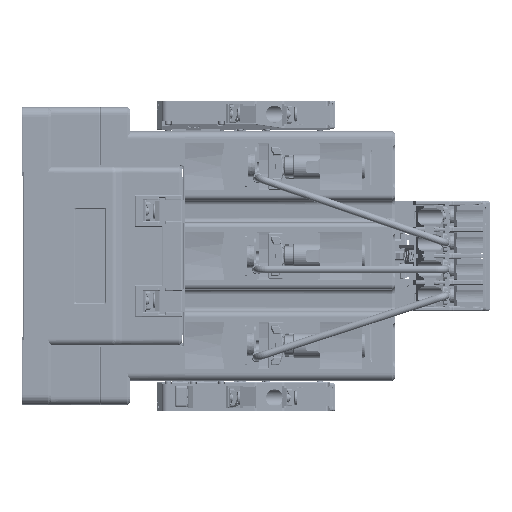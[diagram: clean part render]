
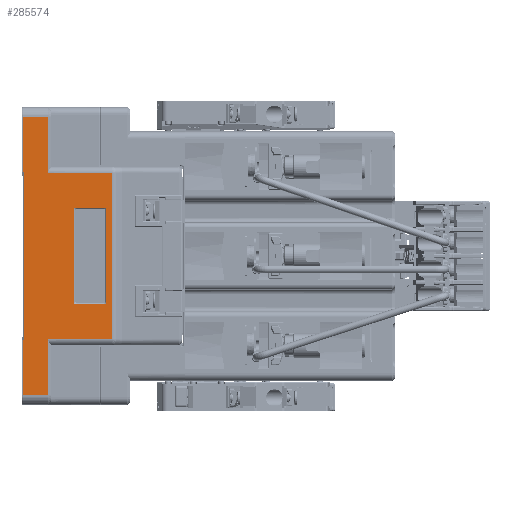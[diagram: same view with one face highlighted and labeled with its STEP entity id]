
A CAD part, left-side view. The second image highlights one B-rep face of the part: STEP entity #285574.
In plain terms, the highlighted planar face has unit normal (-1, 0, 0) as drawn and (1, 0, 0) by its records, which use the part's own axes.
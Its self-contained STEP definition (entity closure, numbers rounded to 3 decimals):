
#253289=DIRECTION('',(0.,1.,0.));
#253290=VECTOR('',#253289,0.5);
#253291=CARTESIAN_POINT('',(78.8,-2.7,33.95));
#253292=LINE('',#253291,#253290);
#253338=DIRECTION('',(0.,1.,0.));
#253339=VECTOR('',#253338,11.586);
#253340=CARTESIAN_POINT('',(78.8,18.707,19.5));
#253341=LINE('',#253340,#253339);
#253345=DIRECTION('',(0.,0.,1.));
#253346=VECTOR('',#253345,37.586);
#253347=CARTESIAN_POINT('',(78.8,18.,-18.793));
#253348=LINE('',#253347,#253346);
#253352=DIRECTION('',(0.,-1.,0.));
#253353=VECTOR('',#253352,11.586);
#253354=CARTESIAN_POINT('',(78.8,30.293,-19.5));
#253355=LINE('',#253354,#253353);
#253359=DIRECTION('',(0.,0.,-1.));
#253360=VECTOR('',#253359,37.586);
#253361=CARTESIAN_POINT('',(78.8,31.,18.793));
#253362=LINE('',#253361,#253360);
#253366=DIRECTION('',(0.,0.,1.));
#253367=VECTOR('',#253366,67.);
#253368=CARTESIAN_POINT('',(78.8,33.298,-33.5));
#253369=LINE('',#253368,#253367);
#253373=DIRECTION('',(0.,0.,-1.));
#253374=VECTOR('',#253373,22.5);
#253375=CARTESIAN_POINT('',(78.8,7.5,-33.5));
#253376=LINE('',#253375,#253374);
#253380=DIRECTION('',(0.,0.,1.));
#253381=VECTOR('',#253380,22.05);
#253382=CARTESIAN_POINT('',(78.8,-2.7,-56.));
#253383=LINE('',#253382,#253381);
#253387=DIRECTION('',(0.,0.,-1.));
#253388=VECTOR('',#253387,67.9);
#253389=CARTESIAN_POINT('',(78.8,-2.2,33.95));
#253390=LINE('',#253389,#253388);
#253394=DIRECTION('',(0.,0.,1.));
#253395=VECTOR('',#253394,22.05);
#253396=CARTESIAN_POINT('',(78.8,-2.7,33.95));
#253397=LINE('',#253396,#253395);
#253401=DIRECTION('',(0.,0.,-1.));
#253402=VECTOR('',#253401,22.5);
#253403=CARTESIAN_POINT('',(78.8,7.5,
56.));
#253404=LINE('',#253403,#253402);
#253422=CARTESIAN_POINT('',(78.8,18.,18.793));
#253423=CARTESIAN_POINT('',(78.8,18.,19.029));
#253424=CARTESIAN_POINT('',(78.8,18.143,19.357));
#253425=CARTESIAN_POINT('',(78.8,18.471,19.5));
#253426=CARTESIAN_POINT('',(78.8,18.707,19.5));
#255707=CARTESIAN_POINT('',(78.8,18.707,-19.5));
#255708=CARTESIAN_POINT('',(78.8,18.471,-19.5));
#255709=CARTESIAN_POINT('',(78.8,18.143,-19.357));
#255710=CARTESIAN_POINT('',(78.8,18.,-19.029));
#255711=CARTESIAN_POINT('',(78.8,18.,-18.793));
#255730=CARTESIAN_POINT('',(78.8,31.,-18.793));
#255731=CARTESIAN_POINT('',(78.8,31.,-19.029));
#255732=CARTESIAN_POINT('',(78.8,30.857,-19.357));
#255733=CARTESIAN_POINT('',(78.8,30.529,-19.5));
#255734=CARTESIAN_POINT('',(78.8,30.293,-19.5));
#255753=CARTESIAN_POINT('',(78.8,30.293,19.5));
#255754=CARTESIAN_POINT('',(78.8,30.529,19.5));
#255755=CARTESIAN_POINT('',(78.8,30.857,19.357));
#255756=CARTESIAN_POINT('',(78.8,31.,19.029));
#255757=CARTESIAN_POINT('',(78.8,31.,18.793));
#255800=DIRECTION('',(0.,-1.,0.));
#255801=VECTOR('',#255800,25.798);
#255802=CARTESIAN_POINT('',(78.8,33.298,33.5));
#255803=LINE('',#255802,#255801);
#255854=DIRECTION('',(0.,-1.,0.));
#255855=VECTOR('',#255854,10.2);
#255856=CARTESIAN_POINT('',(78.8,7.5,
56.));
#255857=LINE('',#255856,#255855);
#256884=DIRECTION('',(0.,-1.,0.));
#256885=VECTOR('',#256884,0.5);
#256886=CARTESIAN_POINT('',(78.8,-2.2,-33.95));
#256887=LINE('',#256886,#256885);
#256997=DIRECTION('',(0.,1.,0.));
#256998=VECTOR('',#256997,10.2);
#256999=CARTESIAN_POINT('',(78.8,-2.7,-56.));
#257000=LINE('',#256999,#256998);
#259097=DIRECTION('',(0.,1.,0.));
#259098=VECTOR('',#259097,25.798);
#259099=CARTESIAN_POINT('',(78.8,7.5,-33.5));
#259100=LINE('',#259099,#259098);
#269738=CARTESIAN_POINT('',(78.8,7.5,
56.));
#269739=CARTESIAN_POINT('',(78.8,7.5,33.5));
#269740=VERTEX_POINT('',#269738);
#269741=VERTEX_POINT('',#269739);
#269764=CARTESIAN_POINT('',(78.8,7.5,-56.));
#269765=VERTEX_POINT('',#269764);
#269768=CARTESIAN_POINT('',(78.8,7.5,-33.5));
#269769=VERTEX_POINT('',#269768);
#269772=CARTESIAN_POINT('',(78.8,18.707,-19.5));
#269773=VERTEX_POINT('',#269772);
#269774=CARTESIAN_POINT('',(78.8,18.,-18.793));
#269775=VERTEX_POINT('',#269774);
#269778=CARTESIAN_POINT('',(78.8,18.,18.793));
#269779=VERTEX_POINT('',#269778);
#269780=CARTESIAN_POINT('',(78.8,18.707,19.5));
#269781=VERTEX_POINT('',#269780);
#269784=CARTESIAN_POINT('',(78.8,30.293,19.5));
#269785=VERTEX_POINT('',#269784);
#269786=CARTESIAN_POINT('',(78.8,31.,18.793));
#269787=VERTEX_POINT('',#269786);
#269790=CARTESIAN_POINT('',(78.8,31.,-18.793));
#269791=VERTEX_POINT('',#269790);
#269792=CARTESIAN_POINT('',(78.8,30.293,-19.5));
#269793=VERTEX_POINT('',#269792);
#271951=CARTESIAN_POINT('',(78.8,-2.7,-56.));
#271952=CARTESIAN_POINT('',(78.8,-2.7,-33.95));
#271953=VERTEX_POINT('',#271951);
#271954=VERTEX_POINT('',#271952);
#271978=CARTESIAN_POINT('',(78.8,-2.2,33.95));
#271979=CARTESIAN_POINT('',(78.8,-2.2,-33.95));
#271980=VERTEX_POINT('',#271978);
#271981=VERTEX_POINT('',#271979);
#271991=CARTESIAN_POINT('',(78.8,-2.7,33.95));
#271993=VERTEX_POINT('',#271991);
#272003=CARTESIAN_POINT('',(78.8,-2.7,56.));
#272004=VERTEX_POINT('',#272003);
#272480=CARTESIAN_POINT('',(78.8,33.298,33.5));
#272481=VERTEX_POINT('',#272480);
#272482=CARTESIAN_POINT('',(78.8,33.298,-33.5));
#272483=VERTEX_POINT('',#272482);
#285526=CARTESIAN_POINT('',(78.8,-2.5,36.));
#285527=DIRECTION('',(1.,0.,0.));
#285528=DIRECTION('',(0.,1.,0.));
#285529=AXIS2_PLACEMENT_3D('',#285526,#285527,#285528);
#285530=PLANE('',#285529);
#285532=ORIENTED_EDGE('',*,*,#285531,.F.);
#285534=ORIENTED_EDGE('',*,*,#285533,.F.);
#285536=ORIENTED_EDGE('',*,*,#285535,.T.);
#285538=ORIENTED_EDGE('',*,*,#285537,.F.);
#285540=ORIENTED_EDGE('',*,*,#285539,.T.);
#285542=ORIENTED_EDGE('',*,*,#285541,.F.);
#285544=ORIENTED_EDGE('',*,*,#285543,.F.);
#285545=ORIENTED_EDGE('',*,*,#285501,.F.);
#285547=ORIENTED_EDGE('',*,*,#285546,.T.);
#285549=ORIENTED_EDGE('',*,*,#285548,.F.);
#285551=ORIENTED_EDGE('',*,*,#285550,.T.);
#285553=ORIENTED_EDGE('',*,*,#285552,.F.);
#285554=EDGE_LOOP('',(#285532,#285534,#285536,#285538,#285540,#285542,#285544,
#285545,#285547,#285549,#285551,#285553));
#285555=FACE_OUTER_BOUND('',#285554,.F.);
#285557=ORIENTED_EDGE('',*,*,#285556,.F.);
#285559=ORIENTED_EDGE('',*,*,#285558,.F.);
#285561=ORIENTED_EDGE('',*,*,#285560,.F.);
#285563=ORIENTED_EDGE('',*,*,#285562,.F.);
#285565=ORIENTED_EDGE('',*,*,#285564,.F.);
#285567=ORIENTED_EDGE('',*,*,#285566,.F.);
#285569=ORIENTED_EDGE('',*,*,#285568,.F.);
#285571=ORIENTED_EDGE('',*,*,#285570,.F.);
#285572=EDGE_LOOP('',(#285557,#285559,#285561,#285563,#285565,#285567,#285569,
#285571));
#285573=FACE_BOUND('',#285572,.F.);
#285574=ADVANCED_FACE('',(#285555,#285573),#285530,.T.);
#253427=B_SPLINE_CURVE_WITH_KNOTS('',3,(#253422,#253423,#253424,#253425,
#253426),.UNSPECIFIED.,.F.,.F.,(4,1,4),(0.,0.5,1.),.UNSPECIFIED.);
#255712=B_SPLINE_CURVE_WITH_KNOTS('',3,(#255707,#255708,#255709,#255710,
#255711),.UNSPECIFIED.,.F.,.F.,(4,1,4),(0.,0.5,1.),.UNSPECIFIED.);
#255735=B_SPLINE_CURVE_WITH_KNOTS('',3,(#255730,#255731,#255732,#255733,
#255734),.UNSPECIFIED.,.F.,.F.,(4,1,4),(0.,0.5,1.),.UNSPECIFIED.);
#255758=B_SPLINE_CURVE_WITH_KNOTS('',3,(#255753,#255754,#255755,#255756,
#255757),.UNSPECIFIED.,.F.,.F.,(4,1,4),(0.,0.5,1.),.UNSPECIFIED.);
#285501=EDGE_CURVE('',#271993,#271980,#253292,.T.);
#285531=EDGE_CURVE('',#272483,#272481,#253369,.T.);
#285533=EDGE_CURVE('',#269769,#272483,#259100,.T.);
#285535=EDGE_CURVE('',#269769,#269765,#253376,.T.);
#285537=EDGE_CURVE('',#271953,#269765,#257000,.T.);
#285539=EDGE_CURVE('',#271953,#271954,#253383,.T.);
#285541=EDGE_CURVE('',#271981,#271954,#256887,.T.);
#285543=EDGE_CURVE('',#271980,#271981,#253390,.T.);
#285546=EDGE_CURVE('',#271993,#272004,#253397,.T.);
#285548=EDGE_CURVE('',#269740,#272004,#255857,.T.);
#285550=EDGE_CURVE('',#269740,#269741,#253404,.T.);
#285552=EDGE_CURVE('',#272481,#269741,#255803,.T.);
#285556=EDGE_CURVE('',#269781,#269785,#253341,.T.);
#285558=EDGE_CURVE('',#269779,#269781,#253427,.T.);
#285560=EDGE_CURVE('',#269775,#269779,#253348,.T.);
#285562=EDGE_CURVE('',#269773,#269775,#255712,.T.);
#285564=EDGE_CURVE('',#269793,#269773,#253355,.T.);
#285566=EDGE_CURVE('',#269791,#269793,#255735,.T.);
#285568=EDGE_CURVE('',#269787,#269791,#253362,.T.);
#285570=EDGE_CURVE('',#269785,#269787,#255758,.T.);
